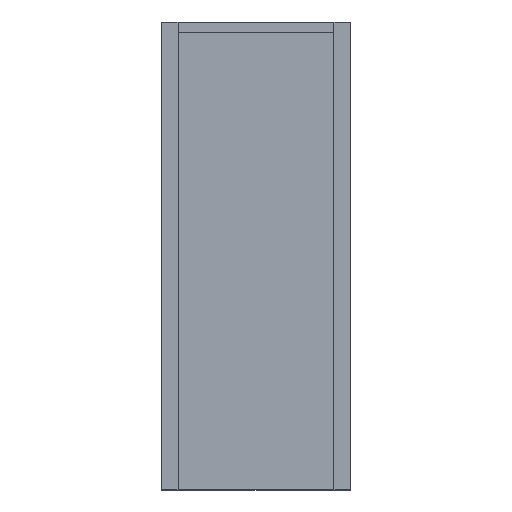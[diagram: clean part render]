
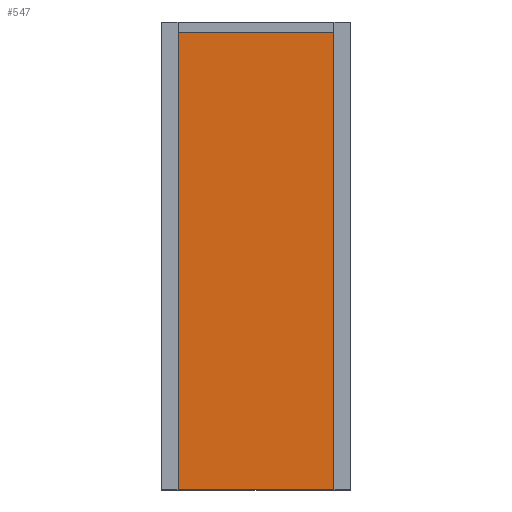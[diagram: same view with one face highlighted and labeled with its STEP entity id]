
A CAD part, top view. The second image highlights one B-rep face of the part: STEP entity #547.
In plain terms, the highlighted planar face has unit normal (0, 0, 1).
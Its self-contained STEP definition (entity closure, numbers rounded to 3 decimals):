
#126 = PLANE('',#127);
#127 = AXIS2_PLACEMENT_3D('',#128,#129,#130);
#128 = CARTESIAN_POINT('',(-23.,-102.,35.));
#129 = DIRECTION('',(0.,1.,0.));
#130 = DIRECTION('',(0.,0.,1.));
#200 = VERTEX_POINT('',#201);
#201 = CARTESIAN_POINT('',(19.,-102.,38.));
#215 = PLANE('',#216);
#216 = AXIS2_PLACEMENT_3D('',#217,#218,#219);
#217 = CARTESIAN_POINT('',(19.,-102.,38.));
#218 = DIRECTION('',(1.,0.,0.));
#219 = DIRECTION('',(0.,0.,1.));
#227 = EDGE_CURVE('',#228,#200,#230,.T.);
#228 = VERTEX_POINT('',#229);
#229 = CARTESIAN_POINT('',(-19.,-102.,38.));
#230 = SURFACE_CURVE('',#231,(#235,#242),.PCURVE_S1.);
#231 = LINE('',#232,#233);
#232 = CARTESIAN_POINT('',(-23.,-102.,38.));
#233 = VECTOR('',#234,1.);
#234 = DIRECTION('',(1.,0.,0.));
#235 = PCURVE('',#126,#236);
#236 = DEFINITIONAL_REPRESENTATION('',(#237),#241);
#237 = LINE('',#238,#239);
#238 = CARTESIAN_POINT('',(3.,0.));
#239 = VECTOR('',#240,1.);
#240 = DIRECTION('',(0.,1.));
#241 = ( GEOMETRIC_REPRESENTATION_CONTEXT(2) 
PARAMETRIC_REPRESENTATION_CONTEXT() REPRESENTATION_CONTEXT('2D SPACE',''
  ) );
#242 = PCURVE('',#243,#248);
#243 = PLANE('',#244);
#244 = AXIS2_PLACEMENT_3D('',#245,#246,#247);
#245 = CARTESIAN_POINT('',(-23.,-102.,38.));
#246 = DIRECTION('',(0.,0.,1.));
#247 = DIRECTION('',(1.,0.,0.));
#248 = DEFINITIONAL_REPRESENTATION('',(#249),#253);
#249 = LINE('',#250,#251);
#250 = CARTESIAN_POINT('',(0.,0.));
#251 = VECTOR('',#252,1.);
#252 = DIRECTION('',(1.,0.));
#253 = ( GEOMETRIC_REPRESENTATION_CONTEXT(2) 
PARAMETRIC_REPRESENTATION_CONTEXT() REPRESENTATION_CONTEXT('2D SPACE',''
  ) );
#271 = PLANE('',#272);
#272 = AXIS2_PLACEMENT_3D('',#273,#274,#275);
#273 = CARTESIAN_POINT('',(-19.,-102.,38.));
#274 = DIRECTION('',(1.,0.,0.));
#275 = DIRECTION('',(0.,0.,1.));
#547 = ADVANCED_FACE('',(#548),#243,.T.);
#548 = FACE_BOUND('',#549,.T.);
#549 = EDGE_LOOP('',(#550,#580,#601,#602));
#550 = ORIENTED_EDGE('',*,*,#551,.F.);
#551 = EDGE_CURVE('',#552,#554,#556,.T.);
#552 = VERTEX_POINT('',#553);
#553 = CARTESIAN_POINT('',(-19.,9.5,38.));
#554 = VERTEX_POINT('',#555);
#555 = CARTESIAN_POINT('',(19.,9.5,38.));
#556 = SURFACE_CURVE('',#557,(#561,#568),.PCURVE_S1.);
#557 = LINE('',#558,#559);
#558 = CARTESIAN_POINT('',(-19.,9.5,38.));
#559 = VECTOR('',#560,1.);
#560 = DIRECTION('',(1.,0.,0.));
#561 = PCURVE('',#243,#562);
#562 = DEFINITIONAL_REPRESENTATION('',(#563),#567);
#563 = LINE('',#564,#565);
#564 = CARTESIAN_POINT('',(4.,111.5));
#565 = VECTOR('',#566,1.);
#566 = DIRECTION('',(1.,0.));
#567 = ( GEOMETRIC_REPRESENTATION_CONTEXT(2) 
PARAMETRIC_REPRESENTATION_CONTEXT() REPRESENTATION_CONTEXT('2D SPACE',''
  ) );
#568 = PCURVE('',#569,#574);
#569 = PLANE('',#570);
#570 = AXIS2_PLACEMENT_3D('',#571,#572,#573);
#571 = CARTESIAN_POINT('',(-19.,9.5,38.));
#572 = DIRECTION('',(0.,1.,0.));
#573 = DIRECTION('',(0.,0.,1.));
#574 = DEFINITIONAL_REPRESENTATION('',(#575),#579);
#575 = LINE('',#576,#577);
#576 = CARTESIAN_POINT('',(0.,0.));
#577 = VECTOR('',#578,1.);
#578 = DIRECTION('',(0.,1.));
#579 = ( GEOMETRIC_REPRESENTATION_CONTEXT(2) 
PARAMETRIC_REPRESENTATION_CONTEXT() REPRESENTATION_CONTEXT('2D SPACE',''
  ) );
#580 = ORIENTED_EDGE('',*,*,#581,.T.);
#581 = EDGE_CURVE('',#552,#228,#582,.T.);
#582 = SURFACE_CURVE('',#583,(#587,#594),.PCURVE_S1.);
#583 = LINE('',#584,#585);
#584 = CARTESIAN_POINT('',(-19.,-102.,38.));
#585 = VECTOR('',#586,1.);
#586 = DIRECTION('',(0.,-1.,0.));
#587 = PCURVE('',#243,#588);
#588 = DEFINITIONAL_REPRESENTATION('',(#589),#593);
#589 = LINE('',#590,#591);
#590 = CARTESIAN_POINT('',(4.,0.));
#591 = VECTOR('',#592,1.);
#592 = DIRECTION('',(0.,-1.));
#593 = ( GEOMETRIC_REPRESENTATION_CONTEXT(2) 
PARAMETRIC_REPRESENTATION_CONTEXT() REPRESENTATION_CONTEXT('2D SPACE',''
  ) );
#594 = PCURVE('',#271,#595);
#595 = DEFINITIONAL_REPRESENTATION('',(#596),#600);
#596 = LINE('',#597,#598);
#597 = CARTESIAN_POINT('',(0.,0.));
#598 = VECTOR('',#599,1.);
#599 = DIRECTION('',(0.,1.));
#600 = ( GEOMETRIC_REPRESENTATION_CONTEXT(2) 
PARAMETRIC_REPRESENTATION_CONTEXT() REPRESENTATION_CONTEXT('2D SPACE',''
  ) );
#601 = ORIENTED_EDGE('',*,*,#227,.T.);
#602 = ORIENTED_EDGE('',*,*,#603,.T.);
#603 = EDGE_CURVE('',#200,#554,#604,.T.);
#604 = SURFACE_CURVE('',#605,(#609,#616),.PCURVE_S1.);
#605 = LINE('',#606,#607);
#606 = CARTESIAN_POINT('',(19.,-102.,38.));
#607 = VECTOR('',#608,1.);
#608 = DIRECTION('',(0.,1.,0.));
#609 = PCURVE('',#243,#610);
#610 = DEFINITIONAL_REPRESENTATION('',(#611),#615);
#611 = LINE('',#612,#613);
#612 = CARTESIAN_POINT('',(42.,0.));
#613 = VECTOR('',#614,1.);
#614 = DIRECTION('',(0.,1.));
#615 = ( GEOMETRIC_REPRESENTATION_CONTEXT(2) 
PARAMETRIC_REPRESENTATION_CONTEXT() REPRESENTATION_CONTEXT('2D SPACE',''
  ) );
#616 = PCURVE('',#215,#617);
#617 = DEFINITIONAL_REPRESENTATION('',(#618),#622);
#618 = LINE('',#619,#620);
#619 = CARTESIAN_POINT('',(0.,0.));
#620 = VECTOR('',#621,1.);
#621 = DIRECTION('',(0.,-1.));
#622 = ( GEOMETRIC_REPRESENTATION_CONTEXT(2) 
PARAMETRIC_REPRESENTATION_CONTEXT() REPRESENTATION_CONTEXT('2D SPACE',''
  ) );
